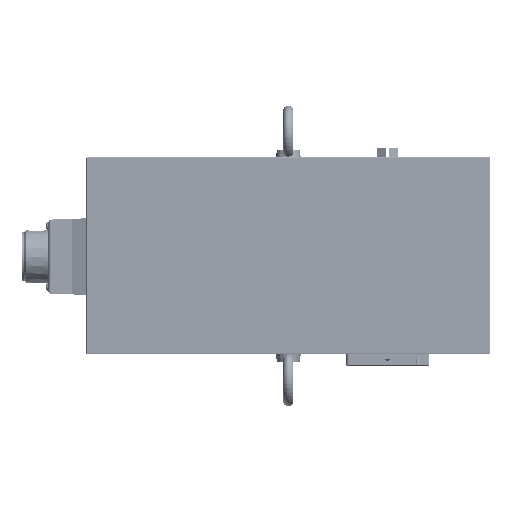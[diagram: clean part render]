
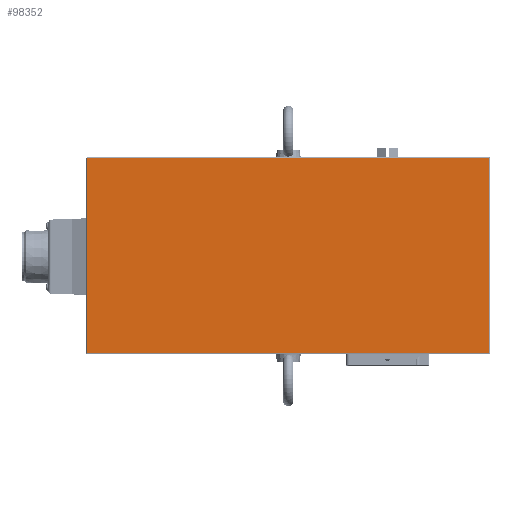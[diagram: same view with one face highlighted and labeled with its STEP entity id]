
A CAD part, top view. The second image highlights one B-rep face of the part: STEP entity #98352.
In plain terms, the highlighted planar face has unit normal (0, 0, 1) as drawn and (0, 1, 0) by its records, which use the part's own axes.
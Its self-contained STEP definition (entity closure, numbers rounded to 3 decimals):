
#98313=CARTESIAN_POINT('',(120.,75.,120.));
#98314=DIRECTION('',(1.,0.,0.));
#98315=DIRECTION('',(0.,-1.,0.));
#98316=AXIS2_PLACEMENT_3D('',#98313,#98315,#98314);
#98317=PLANE('',#98316);
#98318=CARTESIAN_POINT('',(-1.5,75.,-1.5));
#98319=VERTEX_POINT('',#98318);
#98320=CARTESIAN_POINT('',(116.5,75.,-1.5));
#98321=VERTEX_POINT('',#98320);
#98322=CARTESIAN_POINT('',(-1.5,75.,-1.5));
#98323=DIRECTION('',(1.,0.,0.));
#98324=VECTOR('',#98323,118.);
#98325=LINE('',#98322,#98324);
#98326=EDGE_CURVE('',#98319,#98321,#98325,.T.);
#98327=ORIENTED_EDGE('E69',*,*,#98326,.T.);
#98328=CARTESIAN_POINT('',(116.5,75.,241.5));
#98329=VERTEX_POINT('',#98328);
#98330=CARTESIAN_POINT('',(116.5,75.,-1.5));
#98331=DIRECTION('',(0.,0.,1.));
#98332=VECTOR('',#98331,243.);
#98333=LINE('',#98330,#98332);
#98334=EDGE_CURVE('',#98321,#98329,#98333,.T.);
#98335=ORIENTED_EDGE('E74',*,*,#98334,.T.);
#98336=CARTESIAN_POINT('',(-1.5,75.,241.5));
#98337=VERTEX_POINT('',#98336);
#98338=CARTESIAN_POINT('',(116.5,75.,241.5));
#98339=DIRECTION('',(-1.,0.,0.));
#98340=VECTOR('',#98339,118.);
#98341=LINE('',#98338,#98340);
#98342=EDGE_CURVE('',#98329,#98337,#98341,.T.);
#98343=ORIENTED_EDGE('E76',*,*,#98342,.T.);
#98344=CARTESIAN_POINT('',(-1.5,75.,241.5));
#98345=DIRECTION('',(0.,0.,-1.));
#98346=VECTOR('',#98345,243.);
#98347=LINE('',#98344,#98346);
#98348=EDGE_CURVE('',#98337,#98319,#98347,.T.);
#98349=ORIENTED_EDGE('E72',*,*,#98348,.T.);
#98350=EDGE_LOOP('',(#98327,#98335,#98343,#98349));
#98351=FACE_OUTER_BOUND('',#98350,.F.);
#98352=ADVANCED_FACE('F8',(#98351),#98317,.F.);
